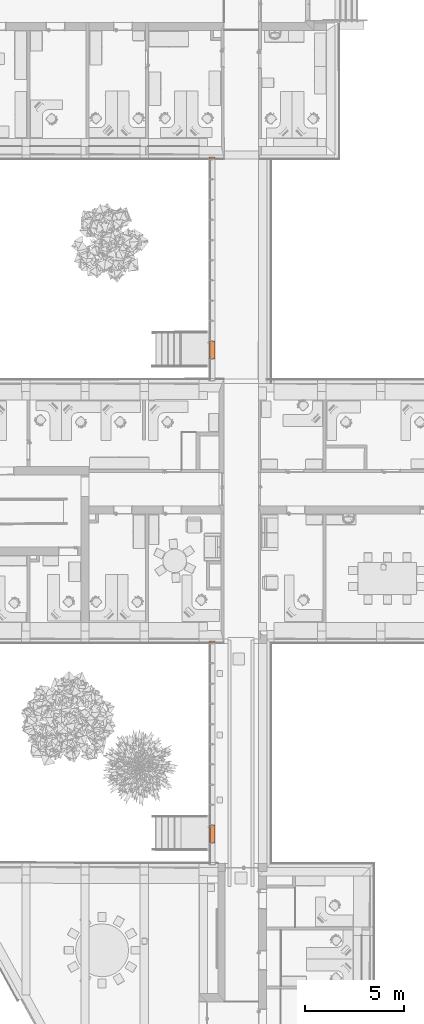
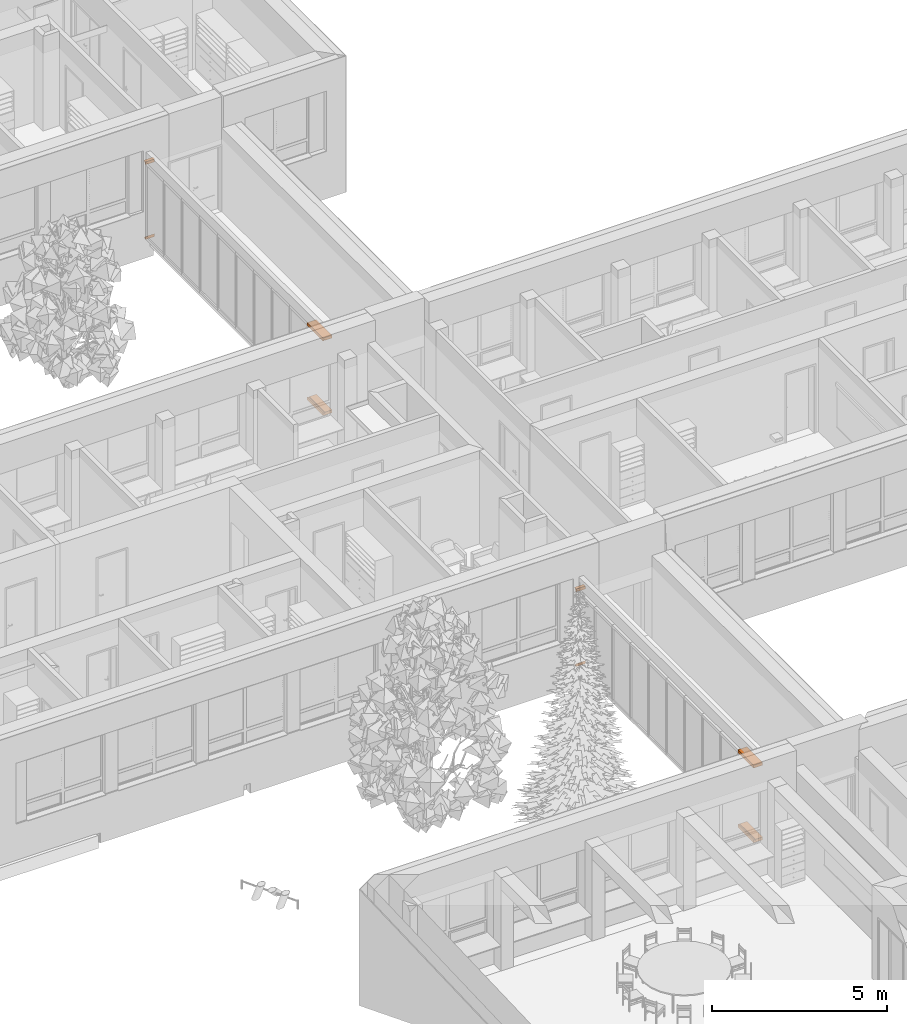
# One storey, part 191 of 194: 8 proxies, 2 elements without a shape of their own.
"""IFC2X3 building model written with IfcOpenShell, lengths in millimetres."""

from ifc_helpers import new_model, entity, si_unit, converted_unit, derived_unit, money_unit, direction, frame, origin_with_axes, place, context, subcontext, project, spatial, polyline, outline, extrude, clip, halfspace, material, type_object, element, aggregate, save


model = new_model("IFC2X3")

# Units and contexts
model_context = context("Model", 3, precision=1e-05, world=origin_with_axes(), true_north=direction((0.0, 1.0)))
body_context = subcontext(model_context, "Body", "Model", "MODEL_VIEW")
ifc_project = project(units=[si_unit("LENGTHUNIT", "METRE", prefix="MILLI"), si_unit("AREAUNIT", "SQUARE_METRE"), si_unit("VOLUMEUNIT", "CUBIC_METRE"), converted_unit("PLANEANGLEUNIT", "DEGREE", entity("IfcPlaneAngleMeasure", 0.0174532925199), si_unit("PLANEANGLEUNIT", "RADIAN"), dimensions=[0, 0, 0, 0, 0, 0, 0]), si_unit("SOLIDANGLEUNIT", "STERADIAN"), money_unit("EUR"), converted_unit("TIMEUNIT", "Year", entity("IfcTimeMeasure", 31556926.0), si_unit("TIMEUNIT", "SECOND"), dimensions=[0, 0, 1, 0, 0, 0, 0]), si_unit("MASSUNIT", "GRAM", prefix="KILO"), si_unit("THERMODYNAMICTEMPERATUREUNIT", "DEGREE_CELSIUS"), si_unit("LUMINOUSINTENSITYUNIT", "LUMEN"), si_unit("ENERGYUNIT", "JOULE", prefix="MEGA"), derived_unit("THERMALCONDUCTANCEUNIT", [(si_unit("POWERUNIT", "WATT"), 1), (si_unit("LENGTHUNIT", "METRE"), -1), (si_unit("THERMODYNAMICTEMPERATUREUNIT", "KELVIN"), -1)]), derived_unit("SPECIFICHEATCAPACITYUNIT", [(si_unit("ENERGYUNIT", "JOULE"), 1), (si_unit("MASSUNIT", "GRAM", prefix="KILO"), -1), (si_unit("THERMODYNAMICTEMPERATUREUNIT", "KELVIN"), -1)]), derived_unit("MASSDENSITYUNIT", [(si_unit("MASSUNIT", "GRAM", prefix="KILO"), 1), (si_unit("VOLUMEUNIT", "CUBIC_METRE"), -1)])], contexts=[model_context])

# Site, building, storey
site_placement = place(None, origin_with_axes())
site = spatial("IfcSite", under=ifc_project, at=site_placement, Name="Site", CompositionType="ELEMENT")
building_placement = place(site_placement, origin_with_axes())
building = spatial("IfcBuilding", under=site, at=building_placement, Name="Building", CompositionType="ELEMENT")
storey_placement = place(building_placement, frame((0.0, 0.0, 3000.0), z_axis=(0.0, 0.0, 1.0), x_axis=(1.0, 0.0, 0.0)))
storey = spatial("IfcBuildingStorey", under=building, at=storey_placement, Name="2 KORRUS", CompositionType="ELEMENT", Elevation=3000.0)

# Curtain wall, proxies
curtain_wall_type_1 = type_object("IfcCurtainWallType", Name="KS-2", PredefinedType="NOTDEFINED")
curtain_wall_1_placement = place(storey_placement, frame((37291.3079908, 33624.5964496, -0.000166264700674), z_axis=(0.0, 0.0, 1.0), x_axis=(1.0, 0.0, 0.0)))
curtain_wall_1 = element("IfcCurtainWall", 1, at=curtain_wall_1_placement, inside=storey, type_object=curtain_wall_type_1, Name="KS")
ifc_material = material(Name="Alumiinium (1)")
building_element_proxy_type_1 = type_object("IfcBuildingElementProxyType", Name="Frame-Bnd-309", PredefinedType="NOTDEFINED")
proxy_1_placement = place(curtain_wall_1_placement, frame((0.0, -9612.5, 0.0), z_axis=(0.0, 1.0, 0.0), x_axis=(0.0, 0.0, 1.0)))
proxy_1 = element("IfcBuildingElementProxy", 2, at=proxy_1_placement, type_object=building_element_proxy_type_1, material=ifc_material, Name="Alumiinium (1);  Objekti nimi: Built-in Frame", context=body_context, shape_type="SweptSolid", body=[
    extrude(outline(polyline([(9.99999999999, 30.0), (9.99999999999, 0.0), (250.0, 0.0), (250.0, 100.0), (-50.0, 100.0), (-50.0, 0.0), (-9.99999999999, 0.0), (-9.99999999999, 30.0), (9.99999999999, 30.0)])), frame((0.0, 0.0, 0.0), z_axis=(0.0, 0.0, 1.0), x_axis=(0.0, 1.0, 0.0)), (0.0, 0.0, 1.0), 900.0),
])
building_element_proxy_type_2 = type_object("IfcBuildingElementProxyType", Name="Frame-Bnd-331", PredefinedType="NOTDEFINED")
proxy_2_placement = place(curtain_wall_1_placement, frame((0.0, -9612.5, 2500.00035055), z_axis=(0.0, 1.0, 0.0), x_axis=(0.0, 0.0, 1.0)))
proxy_2 = element("IfcBuildingElementProxy", 3, at=proxy_2_placement, type_object=building_element_proxy_type_2, material=ifc_material, Name="Alumiinium (1);  Objekti nimi: Built-in Frame", context=body_context, shape_type="SweptSolid", body=[
    extrude(outline(polyline([(9.99999999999, -30.0), (-9.99999999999, -30.0), (-9.99999999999, 0.0), (-50.0, 0.0), (-50.0, -100.0), (250.0, -100.0), (250.0, 0.0), (9.99999999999, 0.0), (9.99999999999, -30.0)])), frame((0.0, 0.0, 0.0), z_axis=(0.0, 0.0, 1.0), x_axis=(0.0, 1.0, 0.0)), (0.0, 0.0, 1.0), 900.0),
])
building_element_proxy_type_3 = type_object("IfcBuildingElementProxyType", Name="Frame-Bnd-321", PredefinedType="NOTDEFINED")
proxy_3_placement = place(curtain_wall_1_placement, frame((0.0, 512.500000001, 2500.00035055), z_axis=(0.0, 1.0, 0.0), x_axis=(0.0, 0.0, 1.0)))
proxy_3 = element("IfcBuildingElementProxy", 4, at=proxy_3_placement, type_object=building_element_proxy_type_3, material=ifc_material, Name="Alumiinium (1);  Objekti nimi: Built-in Frame", context=body_context, shape_type="Clipping", body=[
    clip(extrude(outline(polyline([(9.99999999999, -30.0), (-9.99999999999, -30.0), (-9.99999999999, 0.0), (-50.0, 0.0), (-50.0, -100.0), (250.0, -100.0), (250.0, 0.0), (9.99999999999, 0.0), (9.99999999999, -30.0)])), frame((0.0, 0.0, 0.0), z_axis=(0.0, 0.0, 1.0), x_axis=(0.0, 1.0, 0.0)), (0.0, 0.0, 1.0), 104.04104179), halfspace(frame((-2.02052089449, 0.0, 2.02052089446), z_axis=(0.707106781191, 0.0, -0.707106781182), x_axis=(0.0, 1.0, 0.0)), True)),
])
building_element_proxy_type_4 = type_object("IfcBuildingElementProxyType", Name="Frame-Bnd-319", PredefinedType="NOTDEFINED")
proxy_4_placement = place(curtain_wall_1_placement, frame((0.0, 512.500000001, 0.0), z_axis=(0.0, 1.0, 0.0), x_axis=(0.0, 0.0, 1.0)))
proxy_4 = element("IfcBuildingElementProxy", 5, at=proxy_4_placement, type_object=building_element_proxy_type_4, material=ifc_material, Name="Alumiinium (1);  Objekti nimi: Built-in Frame", context=body_context, shape_type="Clipping", body=[
    clip(extrude(outline(polyline([(9.99999999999, 30.0), (9.99999999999, 0.0), (250.0, 0.0), (250.0, 100.0), (-50.0, 100.0), (-50.0, 0.0), (-9.99999999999, 0.0), (-9.99999999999, 30.0), (9.99999999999, 30.0)])), frame((0.0, 0.0, 0.0), z_axis=(0.0, 0.0, 1.0), x_axis=(0.0, 1.0, 0.0)), (0.0, 0.0, 1.0), 104.04104179), halfspace(frame((2.02052089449, 0.0, 2.02052089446), z_axis=(-0.707106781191, 0.0, -0.707106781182), x_axis=(0.0, 1.0, 0.0)), True)),
])
aggregate(curtain_wall_1, [proxy_1, proxy_2, proxy_3, proxy_4])

curtain_wall_type_2 = type_object("IfcCurtainWallType", Name="KS-1", PredefinedType="NOTDEFINED")
curtain_wall_2_placement = place(storey_placement, frame((37274.747914, 58173.7882895, -0.000166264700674), z_axis=(0.0, 0.0, 1.0), x_axis=(1.0, 0.0, 0.0)))
curtain_wall_2 = element("IfcCurtainWall", 6, at=curtain_wall_2_placement, inside=storey, type_object=curtain_wall_type_2, Name="KS")
building_element_proxy_type_5 = type_object("IfcBuildingElementProxyType", Name="Frame-Bnd-281", PredefinedType="NOTDEFINED")
proxy_5_placement = place(curtain_wall_2_placement, frame((0.0, -9612.5, 0.0), z_axis=(0.0, 1.0, 0.0), x_axis=(0.0, 0.0, 1.0)))
proxy_5 = element("IfcBuildingElementProxy", 7, at=proxy_5_placement, type_object=building_element_proxy_type_5, material=ifc_material, Name="Alumiinium (1);  Objekti nimi: Built-in Frame", context=body_context, shape_type="SweptSolid", body=[
    extrude(outline(polyline([(9.99999999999, 30.0), (9.99999999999, 0.0), (250.0, 0.0), (250.0, 100.0), (-50.0, 100.0), (-50.0, 0.0), (-9.99999999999, 0.0), (-9.99999999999, 30.0), (9.99999999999, 30.0)])), frame((0.0, 0.0, 0.0), z_axis=(0.0, 0.0, 1.0), x_axis=(0.0, 1.0, 0.0)), (0.0, 0.0, 1.0), 900.000000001),
])
building_element_proxy_type_6 = type_object("IfcBuildingElementProxyType", Name="Frame-Bnd-303", PredefinedType="NOTDEFINED")
proxy_6_placement = place(curtain_wall_2_placement, frame((0.0, -9612.5, 2500.00035055), z_axis=(0.0, 1.0, 0.0), x_axis=(0.0, 0.0, 1.0)))
proxy_6 = element("IfcBuildingElementProxy", 8, at=proxy_6_placement, type_object=building_element_proxy_type_6, material=ifc_material, Name="Alumiinium (1);  Objekti nimi: Built-in Frame", context=body_context, shape_type="SweptSolid", body=[
    extrude(outline(polyline([(9.99999999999, -30.0), (-9.99999999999, -30.0), (-9.99999999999, 0.0), (-50.0, 0.0), (-50.0, -100.0), (250.0, -100.0), (250.0, 0.0), (9.99999999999, 0.0), (9.99999999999, -30.0)])), frame((0.0, 0.0, 0.0), z_axis=(0.0, 0.0, 1.0), x_axis=(0.0, 1.0, 0.0)), (0.0, 0.0, 1.0), 900.000000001),
])
building_element_proxy_type_7 = type_object("IfcBuildingElementProxyType", Name="Frame-Bnd-293", PredefinedType="NOTDEFINED")
proxy_7_placement = place(curtain_wall_2_placement, frame((0.0, 512.499999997, 2500.00035055), z_axis=(0.0, 1.0, 0.0), x_axis=(0.0, 0.0, 1.0)))
proxy_7 = element("IfcBuildingElementProxy", 9, at=proxy_7_placement, type_object=building_element_proxy_type_7, material=ifc_material, Name="Alumiinium (1);  Objekti nimi: Built-in Frame", context=body_context, shape_type="Clipping", body=[
    clip(extrude(outline(polyline([(9.99999999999, -30.0), (-9.99999999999, -30.0), (-9.99999999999, 0.0), (-50.0, 0.0), (-50.0, -100.0), (250.0, -100.0), (250.0, 0.0), (9.99999999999, 0.0), (9.99999999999, -30.0)])), frame((0.0, 0.0, 0.0), z_axis=(0.0, 0.0, 1.0), x_axis=(0.0, 1.0, 0.0)), (0.0, 0.0, 1.0), 104.04104179), halfspace(frame((-2.02052089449, 0.0, 2.02052089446), z_axis=(0.707106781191, 0.0, -0.707106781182), x_axis=(0.0, 1.0, 0.0)), True)),
])
building_element_proxy_type_8 = type_object("IfcBuildingElementProxyType", Name="Frame-Bnd-291", PredefinedType="NOTDEFINED")
proxy_8_placement = place(curtain_wall_2_placement, frame((0.0, 512.499999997, 0.0), z_axis=(0.0, 1.0, 0.0), x_axis=(0.0, 0.0, 1.0)))
proxy_8 = element("IfcBuildingElementProxy", 10, at=proxy_8_placement, type_object=building_element_proxy_type_8, material=ifc_material, Name="Alumiinium (1);  Objekti nimi: Built-in Frame", context=body_context, shape_type="Clipping", body=[
    clip(extrude(outline(polyline([(9.99999999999, 30.0), (9.99999999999, 0.0), (250.0, 0.0), (250.0, 100.0), (-50.0, 100.0), (-50.0, 0.0), (-9.99999999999, 0.0), (-9.99999999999, 30.0), (9.99999999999, 30.0)])), frame((0.0, 0.0, 0.0), z_axis=(0.0, 0.0, 1.0), x_axis=(0.0, 1.0, 0.0)), (0.0, 0.0, 1.0), 104.04104179), halfspace(frame((2.02052089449, 0.0, 2.02052089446), z_axis=(-0.707106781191, 0.0, -0.707106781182), x_axis=(0.0, 1.0, 0.0)), True)),
])
aggregate(curtain_wall_2, [proxy_5, proxy_6, proxy_7, proxy_8])

save(model, "model.ifc")
